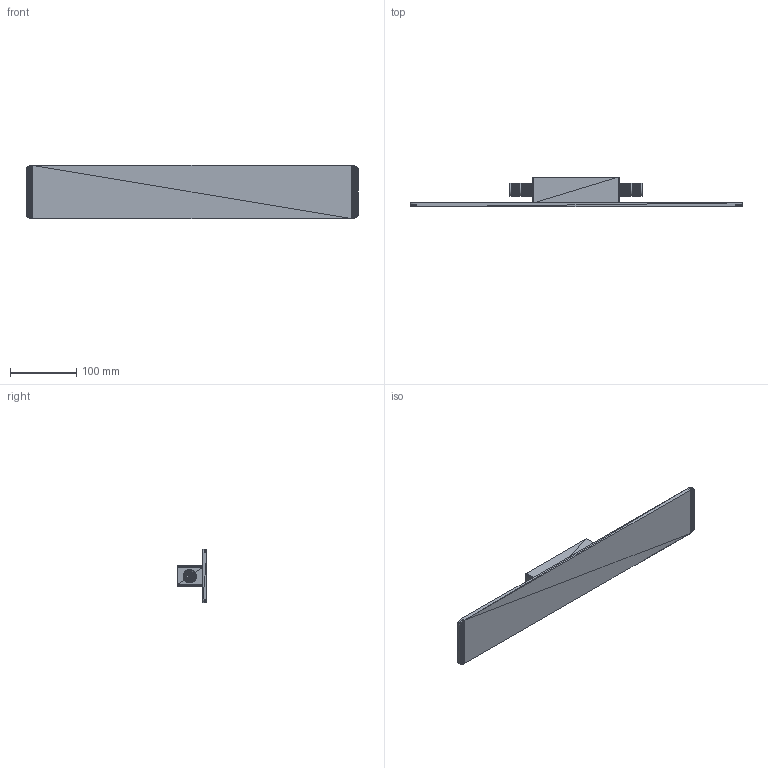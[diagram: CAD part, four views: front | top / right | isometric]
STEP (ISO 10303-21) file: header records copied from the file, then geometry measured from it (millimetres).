
FILE_DESCRIPTION(('FreeCAD Model'),'2;1');
FILE_NAME('Open CASCADE Shape Model','2022-11-29T23:26:08',('Author'),( ''),'Open CASCADE STEP processor 7.6','FreeCAD','Unknown');
FILE_SCHEMA(('AUTOMOTIVE_DESIGN { 1 0 10303 214 1 1 1 1 }'));
Length unit declared in the file: millimetre
Products named in the file (106): Unnamed; Mesh2243 (Solid); Mesh001001 (Solid); Mesh002001 (Solid); Mesh003001 (Solid); Mesh004001 (Solid); Mesh005001 (Solid); Mesh006001 (Solid); Mesh007001 (Solid); Mesh008001 (Solid); Mesh009001 (Solid); Mesh010001 (Solid); Mesh011001 (Solid); Mesh012001 (Solid); Mesh013001 (Solid); Mesh014001 (Solid); Mesh015001 (Solid); Mesh016001 (Solid); Mesh017001 (Solid); Mesh018001 (Solid); Mesh019001 (Solid); Mesh020001 (Solid); Mesh021001 (Solid); Mesh022001 (Solid); Mesh023001 (Solid); Mesh024001 (Solid); Mesh025001 (Solid); Mesh026001 (Solid); Mesh027001 (Solid); Mesh028001 (Solid); Mesh029001 (Solid); Mesh030001 (Solid); Mesh031001 (Solid); Mesh032001 (Solid); Mesh033001 (Solid); Mesh034001 (Solid); Mesh035001 (Solid); Mesh036001 (Solid); Mesh037001 (Solid); Mesh038001 (Solid)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
Assembly tree (105 placements, depth 2):
  Unnamed
    Mesh2243 (Solid)
    Mesh001001 (Solid)
    Mesh002001 (Solid)
    Mesh003001 (Solid)
    Mesh004001 (Solid)
    Mesh005001 (Solid)
    Mesh006001 (Solid)
    Mesh007001 (Solid)
    Mesh008001 (Solid)
    Mesh009001 (Solid)
    Mesh010001 (Solid)
    Mesh011001 (Solid)
    Mesh012001 (Solid)
    Mesh013001 (Solid)
    Mesh014001 (Solid)
    Mesh015001 (Solid)
    Mesh016001 (Solid)
    Mesh017001 (Solid)
    Mesh018001 (Solid)
    Mesh019001 (Solid)
    Mesh020001 (Solid)
    Mesh021001 (Solid)
    Mesh022001 (Solid)
    Mesh023001 (Solid)
    Mesh024001 (Solid)
    Mesh025001 (Solid)
    Mesh026001 (Solid)
    Mesh027001 (Solid)
    Mesh028001 (Solid)
    Mesh029001 (Solid)
    Mesh030001 (Solid)
    Mesh031001 (Solid)
    Mesh032001 (Solid)
    Mesh033001 (Solid)
    Mesh034001 (Solid)
    Mesh035001 (Solid)
    Mesh036001 (Solid)
    Mesh037001 (Solid)
    Mesh038001 (Solid)
    Mesh039001 (Solid)
    Mesh040001 (Solid)
    Mesh041001 (Solid)
    Mesh042001 (Solid)
    Mesh043001 (Solid)
    Mesh044001 (Solid)
    Mesh045001 (Solid)
    Mesh046001 (Solid)
    Mesh047001 (Solid)
    Mesh048001 (Solid)
    Mesh1117001 (Solid)
    Mesh1118001 (Solid)
    Mesh1120011 (Solid)
    Mesh1121001 (Solid)
    Mesh1122001 (Solid)
    Mesh1123001 (Solid)
    Mesh1124001 (Solid)
    Mesh1125001 (Solid)
    Mesh1126001 (Solid)
    Mesh1127001 (Solid)
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Bounding box: 500 x 45 x 80 mm (x, y, z)
Volume: 240171.8 mm3; surface area: 125659.4 mm2
Topology: 29 solids, 113 shells, 11360 faces, 17894 edges, 6614 vertices
Faces by surface type: plane 11360
Entity records: 453816 total; most frequent: DIRECTION 74752, CARTESIAN_POINT 70460, LINE 51820, VECTOR 51820, ORIENTED_EDGE 34220, PCURVE 34206, DEFINITIONAL_REPRESENTATION 34206, EDGE_CURVE 17894
